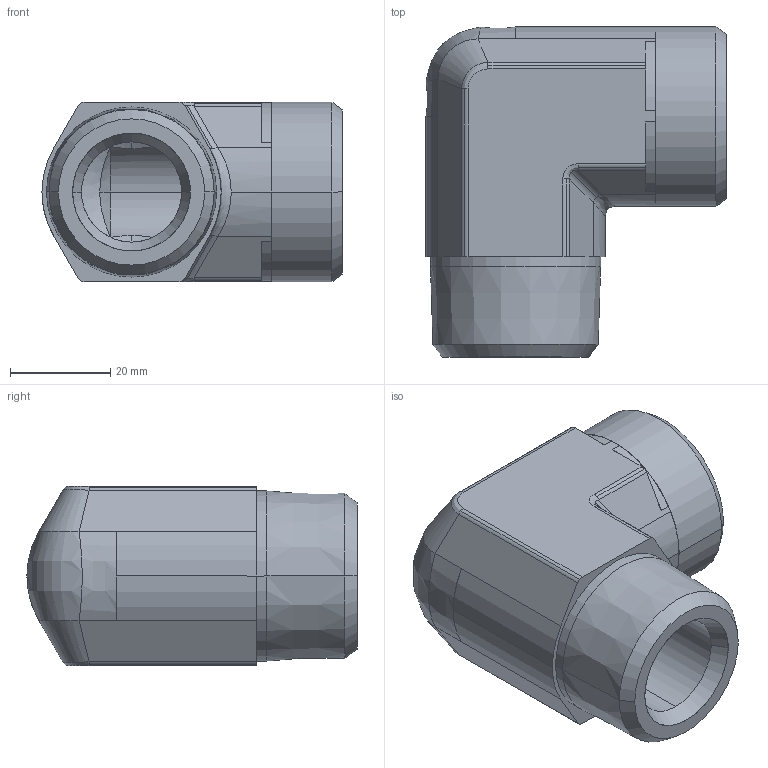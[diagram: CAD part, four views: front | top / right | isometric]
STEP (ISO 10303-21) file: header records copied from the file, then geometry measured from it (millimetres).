
FILE_DESCRIPTION((''),'2;1');
FILE_NAME('102021.stp','2007-10-30T16:34:14',(''),(''),'AutoCAD STEP 2000i','AutoCAD 2000i',', , ');
FILE_SCHEMA(('CONFIG_CONTROL_DESIGN'));
Length unit declared in the file: millimetre
Products named in the file (2): 102021.0; 3090#0
Assembly tree (1 placements, depth 2):
  102021.0
    3090#0
Bounding box: 59.88 x 65.91 x 35.82 mm (x, y, z)
Volume: 59866 mm3; surface area: 17045 mm2
Topology: 1 solids, 1 shells, 109 faces, 256 edges, 151 vertices
Faces by surface type: cylinder 48, plane 26, cone 21, bspline 14
Entity records: 4099 total; most frequent: CARTESIAN_POINT 1483, DIRECTION 560, ORIENTED_EDGE 512, EDGE_CURVE 256, AXIS2_PLACEMENT_3D 228, VERTEX_POINT 151, CIRCLE 113, EDGE_LOOP 113
